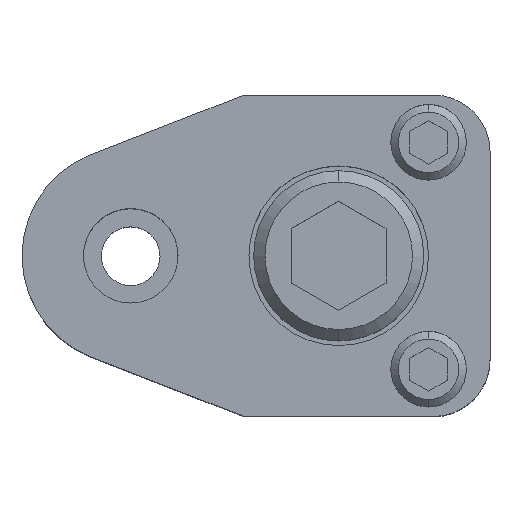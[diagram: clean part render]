
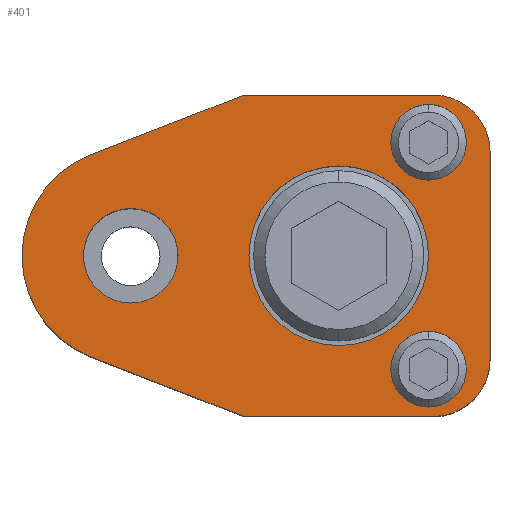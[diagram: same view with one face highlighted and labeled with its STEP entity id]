
A CAD part, top view. The second image highlights one B-rep face of the part: STEP entity #401.
In plain terms, the highlighted planar face has unit normal (0, 0, 1).
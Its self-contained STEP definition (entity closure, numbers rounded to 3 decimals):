
#191=FACE_BOUND('',#703,.T.);
#192=FACE_BOUND('',#704,.T.);
#193=FACE_BOUND('',#705,.T.);
#194=FACE_BOUND('',#706,.T.);
#195=FACE_BOUND('',#707,.T.);
#247=CIRCLE('',#2239,6.);
#249=CIRCLE('',#2244,11.5);
#252=CIRCLE('',#2250,6.);
#254=CIRCLE('',#2253,4.);
#256=CIRCLE('',#2256,4.);
#258=CIRCLE('',#2259,4.);
#260=CIRCLE('',#2262,4.);
#265=CIRCLE('',#2270,9.5);
#266=CIRCLE('',#2271,9.5);
#267=CIRCLE('',#2272,5.);
#268=CIRCLE('',#2273,5.);
#401=ADVANCED_FACE('',(#191,#192,#193,#194,#195),#510,.T.);
#510=PLANE('',#2274);
#703=EDGE_LOOP('',(#999,#1000,#1001,#1002,#1003,#1004,#1005,#1006));
#704=EDGE_LOOP('',(#1007,#1008));
#705=EDGE_LOOP('',(#1009,#1010));
#706=EDGE_LOOP('',(#1011,#1012));
#707=EDGE_LOOP('',(#1013,#1014));
#999=ORIENTED_EDGE('',*,*,#1646,.T.);
#1000=ORIENTED_EDGE('',*,*,#1650,.T.);
#1001=ORIENTED_EDGE('',*,*,#1653,.T.);
#1002=ORIENTED_EDGE('',*,*,#1656,.T.);
#1003=ORIENTED_EDGE('',*,*,#1659,.T.);
#1004=ORIENTED_EDGE('',*,*,#1662,.T.);
#1005=ORIENTED_EDGE('',*,*,#1665,.T.);
#1006=ORIENTED_EDGE('',*,*,#1668,.T.);
#1007=ORIENTED_EDGE('',*,*,#1687,.F.);
#1008=ORIENTED_EDGE('',*,*,#1688,.F.);
#1009=ORIENTED_EDGE('',*,*,#1680,.F.);
#1010=ORIENTED_EDGE('',*,*,#1677,.F.);
#1011=ORIENTED_EDGE('',*,*,#1674,.F.);
#1012=ORIENTED_EDGE('',*,*,#1671,.F.);
#1013=ORIENTED_EDGE('',*,*,#1689,.T.);
#1014=ORIENTED_EDGE('',*,*,#1690,.T.);
#1436=VERTEX_POINT('',#3259);
#1437=VERTEX_POINT('',#3261);
#1440=VERTEX_POINT('',#3268);
#1442=VERTEX_POINT('',#3274);
#1444=VERTEX_POINT('',#3280);
#1446=VERTEX_POINT('',#3286);
#1448=VERTEX_POINT('',#3292);
#1450=VERTEX_POINT('',#3298);
#1453=VERTEX_POINT('',#3309);
#1454=VERTEX_POINT('',#3311);
#1457=VERTEX_POINT('',#3321);
#1458=VERTEX_POINT('',#3323);
#1463=VERTEX_POINT('',#3342);
#1464=VERTEX_POINT('',#3343);
#1465=VERTEX_POINT('',#3346);
#1466=VERTEX_POINT('',#3347);
#1646=EDGE_CURVE('',#1437,#1436,#1920,.T.);
#1650=EDGE_CURVE('',#1436,#1440,#247,.T.);
#1653=EDGE_CURVE('',#1440,#1442,#1925,.T.);
#1656=EDGE_CURVE('',#1442,#1444,#1928,.T.);
#1659=EDGE_CURVE('',#1444,#1446,#249,.T.);
#1662=EDGE_CURVE('',#1446,#1448,#1932,.T.);
#1665=EDGE_CURVE('',#1448,#1450,#1935,.T.);
#1668=EDGE_CURVE('',#1450,#1437,#252,.T.);
#1671=EDGE_CURVE('',#1453,#1454,#254,.T.);
#1674=EDGE_CURVE('',#1454,#1453,#256,.T.);
#1677=EDGE_CURVE('',#1457,#1458,#258,.T.);
#1680=EDGE_CURVE('',#1458,#1457,#260,.T.);
#1687=EDGE_CURVE('',#1463,#1464,#265,.T.);
#1688=EDGE_CURVE('',#1464,#1463,#266,.T.);
#1689=EDGE_CURVE('',#1465,#1466,#267,.T.);
#1690=EDGE_CURVE('',#1466,#1465,#268,.T.);
#1920=LINE('',#3260,#2080);
#1925=LINE('',#3275,#2085);
#1928=LINE('',#3281,#2088);
#1932=LINE('',#3293,#2092);
#1935=LINE('',#3299,#2095);
#2080=VECTOR('',#2591,1.);
#2085=VECTOR('',#2604,1.);
#2088=VECTOR('',#2609,1.);
#2092=VECTOR('',#2621,1.);
#2095=VECTOR('',#2626,1.);
#2239=AXIS2_PLACEMENT_3D('',#3269,#2597,#2598);
#2244=AXIS2_PLACEMENT_3D('',#3287,#2614,#2615);
#2250=AXIS2_PLACEMENT_3D('',#3303,#2632,#2633);
#2253=AXIS2_PLACEMENT_3D('',#3310,#2639,#2640);
#2256=AXIS2_PLACEMENT_3D('',#3315,#2646,#2647);
#2259=AXIS2_PLACEMENT_3D('',#3322,#2653,#2654);
#2262=AXIS2_PLACEMENT_3D('',#3327,#2660,#2661);
#2270=AXIS2_PLACEMENT_3D('',#3341,#2678,#2679);
#2271=AXIS2_PLACEMENT_3D('',#3344,#2680,#2681);
#2272=AXIS2_PLACEMENT_3D('',#3345,#2682,#2683);
#2273=AXIS2_PLACEMENT_3D('',#3348,#2684,#2685);
#2274=AXIS2_PLACEMENT_3D('',#3349,#2686,#2687);
#2591=DIRECTION('',(0.,1.,0.));
#2597=DIRECTION('',(0.,0.,1.));
#2598=DIRECTION('',(-0.707,-0.707,0.));
#2604=DIRECTION('',(-1.,0.,0.));
#2609=DIRECTION('',(-0.932,-0.362,0.));
#2614=DIRECTION('',(0.,0.,1.));
#2615=DIRECTION('',(0.,1.,0.));
#2621=DIRECTION('',(0.932,-0.362,0.));
#2626=DIRECTION('',(1.,0.,0.));
#2632=DIRECTION('',(0.,0.,1.));
#2633=DIRECTION('',(-0.707,0.707,0.));
#2639=DIRECTION('',(0.,0.,1.));
#2640=DIRECTION('',(-1.,0.,0.));
#2646=DIRECTION('',(0.,0.,1.));
#2647=DIRECTION('',(1.,0.,0.));
#2653=DIRECTION('',(0.,0.,1.));
#2654=DIRECTION('',(-1.,0.,0.));
#2660=DIRECTION('',(0.,0.,1.));
#2661=DIRECTION('',(1.,0.,0.));
#2678=DIRECTION('',(0.,0.,1.));
#2679=DIRECTION('',(1.,0.,0.));
#2680=DIRECTION('',(0.,0.,1.));
#2681=DIRECTION('',(-1.,0.,0.));
#2682=DIRECTION('',(0.,0.,-1.));
#2683=DIRECTION('',(-1.,0.,0.));
#2684=DIRECTION('',(0.,0.,-1.));
#2685=DIRECTION('',(1.,0.,0.));
#2686=DIRECTION('',(0.,0.,1.));
#2687=DIRECTION('',(0.,-1.,0.));
#3259=CARTESIAN_POINT('',(38.,11.,30.));
#3260=CARTESIAN_POINT('',(38.,-11.,30.));
#3261=CARTESIAN_POINT('',(38.,-11.,30.));
#3268=CARTESIAN_POINT('',(32.,17.,30.));
#3269=CARTESIAN_POINT('',(32.,11.,30.));
#3274=CARTESIAN_POINT('',(12.,17.,30.));
#3275=CARTESIAN_POINT('',(12.,17.,30.));
#3280=CARTESIAN_POINT('',(-4.165,10.719,30.));
#3281=CARTESIAN_POINT('',(12.,17.,30.));
#3286=CARTESIAN_POINT('',(-4.165,-10.719,30.));
#3287=CARTESIAN_POINT('',(0.,0.,30.));
#3292=CARTESIAN_POINT('',(12.,-17.,30.));
#3293=CARTESIAN_POINT('',(12.,-17.,30.));
#3298=CARTESIAN_POINT('',(32.,-17.,30.));
#3299=CARTESIAN_POINT('',(12.,-17.,30.));
#3303=CARTESIAN_POINT('',(32.,-11.,30.));
#3309=CARTESIAN_POINT('',(31.5,8.,30.));
#3310=CARTESIAN_POINT('',(31.5,12.,30.));
#3311=CARTESIAN_POINT('',(31.5,16.,30.));
#3315=CARTESIAN_POINT('',(31.5,12.,30.));
#3321=CARTESIAN_POINT('',(31.5,-16.,30.));
#3322=CARTESIAN_POINT('',(31.5,-12.,30.));
#3323=CARTESIAN_POINT('',(31.5,-8.,30.));
#3327=CARTESIAN_POINT('',(31.5,-12.,30.));
#3341=CARTESIAN_POINT('',(22.,0.,30.));
#3342=CARTESIAN_POINT('',(22.,9.5,30.));
#3343=CARTESIAN_POINT('',(22.,-9.5,30.));
#3344=CARTESIAN_POINT('',(22.,0.,30.));
#3345=CARTESIAN_POINT('',(0.,0.,30.));
#3346=CARTESIAN_POINT('',(0.,5.,30.));
#3347=CARTESIAN_POINT('',(0.,-5.,30.));
#3348=CARTESIAN_POINT('',(0.,0.,30.));
#3349=CARTESIAN_POINT('',(38.,-11.,30.));
